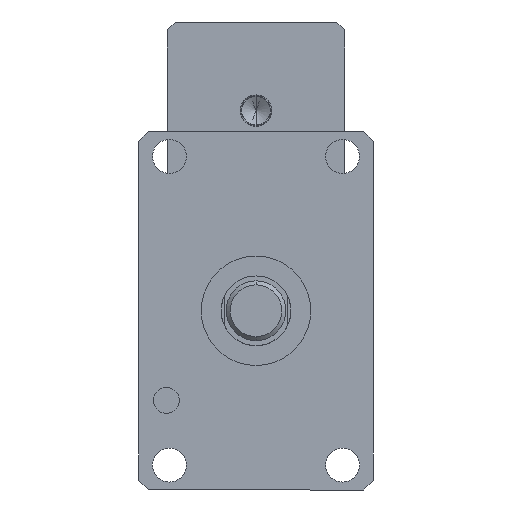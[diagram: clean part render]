
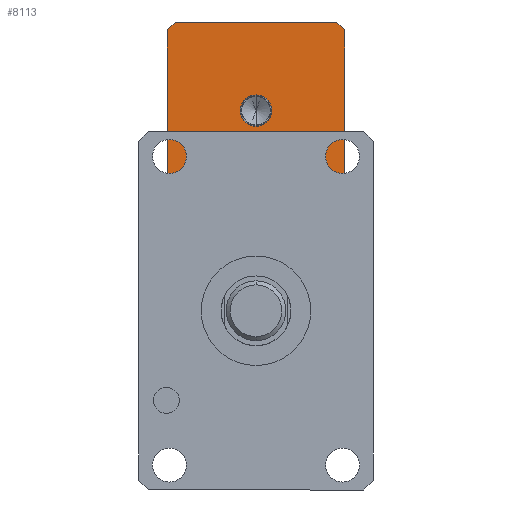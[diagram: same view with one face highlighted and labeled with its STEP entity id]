
A CAD part, front view. The second image highlights one B-rep face of the part: STEP entity #8113.
In plain terms, the highlighted planar face has unit normal (0, -1, 0).
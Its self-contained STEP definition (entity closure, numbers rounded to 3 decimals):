
#45 = VECTOR ( 'NONE', #2141, 1000. ) ;
#142 = AXIS2_PLACEMENT_3D ( 'NONE', #9716, #3876, #10701 ) ;
#164 = EDGE_CURVE ( 'NONE', #3544, #9036, #3170, .T. ) ;
#278 = ORIENTED_EDGE ( 'NONE', *, *, #2357, .T. ) ;
#335 = VERTEX_POINT ( 'NONE', #8887 ) ;
#456 = CARTESIAN_POINT ( 'NONE',  ( 44.5, 260., 141. ) ) ;
#708 = ORIENTED_EDGE ( 'NONE', *, *, #5179, .T. ) ;
#741 = CARTESIAN_POINT ( 'NONE',  ( -44.5, 260., 141. ) ) ;
#775 = VERTEX_POINT ( 'NONE', #11684 ) ;
#788 = LINE ( 'NONE', #5488, #1075 ) ;
#973 = CARTESIAN_POINT ( 'NONE',  ( 44.5, 260., 60. ) ) ;
#980 = LINE ( 'NONE', #11784, #11389 ) ;
#1075 = VECTOR ( 'NONE', #12283, 1000. ) ;
#1370 = EDGE_LOOP ( 'NONE', ( #5976, #10063, #278, #4930, #2251, #708, #8048, #8384 ) ) ;
#1373 = EDGE_CURVE ( 'NONE', #9036, #1828, #2203, .T. ) ;
#1552 = EDGE_CURVE ( 'NONE', #8598, #775, #10378, .T. ) ;
#1568 = ORIENTED_EDGE ( 'NONE', *, *, #7470, .F. ) ;
#1747 = CARTESIAN_POINT ( 'NONE',  ( 40.5, 260., 145. ) ) ;
#1828 = VERTEX_POINT ( 'NONE', #11286 ) ;
#1902 = DIRECTION ( 'NONE',  ( 0., -1., 0. ) ) ;
#2103 = EDGE_CURVE ( 'NONE', #8647, #6958, #11350, .T. ) ;
#2141 = DIRECTION ( 'NONE',  ( -0.707, 0., -0.707 ) ) ;
#2190 = EDGE_CURVE ( 'NONE', #335, #3544, #7844, .T. ) ;
#2201 = PLANE ( 'NONE',  #10874 ) ;
#2203 = LINE ( 'NONE', #6278, #4228 ) ;
#2251 = ORIENTED_EDGE ( 'NONE', *, *, #5440, .F. ) ;
#2357 = EDGE_CURVE ( 'NONE', #1828, #8647, #788, .T. ) ;
#2438 = FACE_OUTER_BOUND ( 'NONE', #1370, .T. ) ;
#2651 = LINE ( 'NONE', #6066, #7589 ) ;
#2808 = VECTOR ( 'NONE', #3566, 1000. ) ;
#3170 = LINE ( 'NONE', #8877, #5829 ) ;
#3213 = CARTESIAN_POINT ( 'NONE',  ( 44.5, 260., 145. ) ) ;
#3359 = VERTEX_POINT ( 'NONE', #456 ) ;
#3544 = VERTEX_POINT ( 'NONE', #741 ) ;
#3566 = DIRECTION ( 'NONE',  ( -0.707, 0., 0.707 ) ) ;
#3876 = DIRECTION ( 'NONE',  ( 0., -1., 0. ) ) ;
#4025 = CARTESIAN_POINT ( 'NONE',  ( 44.5, 260., 60. ) ) ;
#4140 = CARTESIAN_POINT ( 'NONE',  ( -40.5, 260., 145. ) ) ;
#4196 = DIRECTION ( 'NONE',  ( 0., 0., -1. ) ) ;
#4217 = DIRECTION ( 'NONE',  ( 0., 0., 1. ) ) ;
#4228 = VECTOR ( 'NONE', #10986, 1000. ) ;
#4562 = CARTESIAN_POINT ( 'NONE',  ( 40.5, 260., 145. ) ) ;
#4930 = ORIENTED_EDGE ( 'NONE', *, *, #2103, .T. ) ;
#5025 = CARTESIAN_POINT ( 'NONE',  ( 0., 260., 92.597 ) ) ;
#5136 = DIRECTION ( 'NONE',  ( 0., 1., 0. ) ) ;
#5179 = EDGE_CURVE ( 'NONE', #3359, #11083, #10631, .T. ) ;
#5348 = EDGE_CURVE ( 'NONE', #335, #11083, #980, .T. ) ;
#5440 = EDGE_CURVE ( 'NONE', #3359, #6958, #2651, .T. ) ;
#5488 = CARTESIAN_POINT ( 'NONE',  ( 44.5, 260., 56. ) ) ;
#5829 = VECTOR ( 'NONE', #6171, 1000. ) ;
#5974 = DIRECTION ( 'NONE',  ( 1., 0., 0. ) ) ;
#5976 = ORIENTED_EDGE ( 'NONE', *, *, #164, .T. ) ;
#6066 = CARTESIAN_POINT ( 'NONE',  ( 44.5, 260., 145. ) ) ;
#6171 = DIRECTION ( 'NONE',  ( 0., 0., -1. ) ) ;
#6183 = VECTOR ( 'NONE', #8891, 1000. ) ;
#6278 = CARTESIAN_POINT ( 'NONE',  ( -44.5, 260., 60. ) ) ;
#6948 = ORIENTED_EDGE ( 'NONE', *, *, #1552, .F. ) ;
#6958 = VERTEX_POINT ( 'NONE', #973 ) ;
#7470 = EDGE_CURVE ( 'NONE', #775, #8598, #8610, .T. ) ;
#7589 = VECTOR ( 'NONE', #4196, 1000. ) ;
#7814 = CARTESIAN_POINT ( 'NONE',  ( 0., 260., 100.5 ) ) ;
#7844 = LINE ( 'NONE', #4140, #45 ) ;
#7975 = FACE_BOUND ( 'NONE', #8224, .T. ) ;
#8033 = CARTESIAN_POINT ( 'NONE',  ( -44.5, 260., 60. ) ) ;
#8048 = ORIENTED_EDGE ( 'NONE', *, *, #5348, .F. ) ;
#8113 = ADVANCED_FACE ( 'NONE', ( #7975, #2438 ), #2201, .F. ) ;
#8224 = EDGE_LOOP ( 'NONE', ( #6948, #1568 ) ) ;
#8384 = ORIENTED_EDGE ( 'NONE', *, *, #2190, .T. ) ;
#8598 = VERTEX_POINT ( 'NONE', #5025 ) ;
#8610 = CIRCLE ( 'NONE', #10945, 7.903 ) ;
#8647 = VERTEX_POINT ( 'NONE', #9909 ) ;
#8792 = DIRECTION ( 'NONE',  ( 0., 0., -1. ) ) ;
#8877 = CARTESIAN_POINT ( 'NONE',  ( -44.5, 260., 145. ) ) ;
#8887 = CARTESIAN_POINT ( 'NONE',  ( -40.5, 260., 145. ) ) ;
#8891 = DIRECTION ( 'NONE',  ( 0.707, 0., 0.707 ) ) ;
#9036 = VERTEX_POINT ( 'NONE', #8033 ) ;
#9716 = CARTESIAN_POINT ( 'NONE',  ( 0., 260., 100.5 ) ) ;
#9909 = CARTESIAN_POINT ( 'NONE',  ( 40.5, 260., 56. ) ) ;
#10063 = ORIENTED_EDGE ( 'NONE', *, *, #1373, .T. ) ;
#10378 = CIRCLE ( 'NONE', #142, 7.903 ) ;
#10631 = LINE ( 'NONE', #4562, #2808 ) ;
#10701 = DIRECTION ( 'NONE',  ( 0., 0., -1. ) ) ;
#10874 = AXIS2_PLACEMENT_3D ( 'NONE', #3213, #5136, #4217 ) ;
#10945 = AXIS2_PLACEMENT_3D ( 'NONE', #7814, #1902, #8792 ) ;
#10986 = DIRECTION ( 'NONE',  ( 0.707, 0., -0.707 ) ) ;
#11083 = VERTEX_POINT ( 'NONE', #1747 ) ;
#11286 = CARTESIAN_POINT ( 'NONE',  ( -40.5, 260., 56. ) ) ;
#11350 = LINE ( 'NONE', #4025, #6183 ) ;
#11389 = VECTOR ( 'NONE', #5974, 1000. ) ;
#11684 = CARTESIAN_POINT ( 'NONE',  ( 0., 260., 108.403 ) ) ;
#11784 = CARTESIAN_POINT ( 'NONE',  ( 44.5, 260., 145. ) ) ;
#12283 = DIRECTION ( 'NONE',  ( 1., 0., 0. ) ) ;
